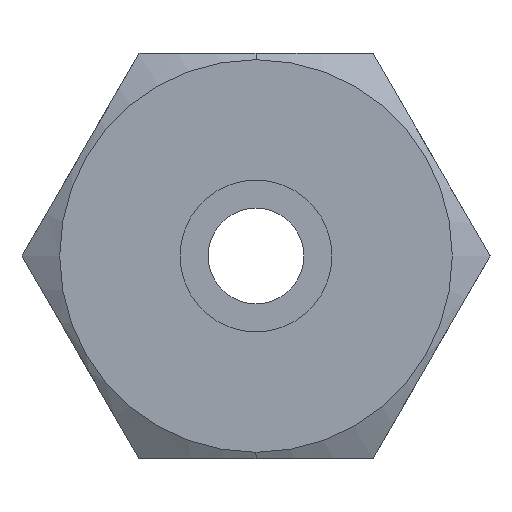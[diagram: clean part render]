
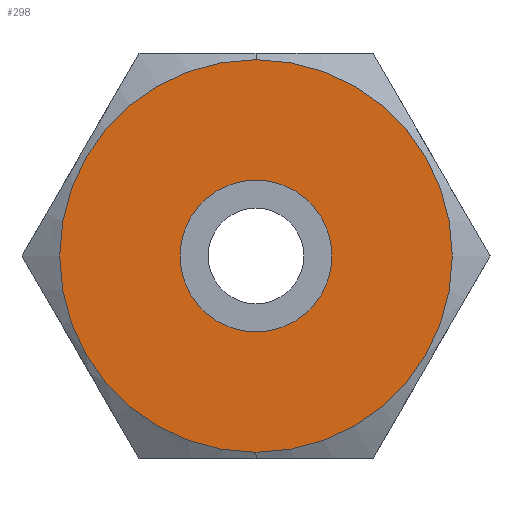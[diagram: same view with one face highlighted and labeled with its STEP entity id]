
A CAD part, left-side view. The second image highlights one B-rep face of the part: STEP entity #298.
In plain terms, the highlighted planar face has unit normal (-1, 0, 0).
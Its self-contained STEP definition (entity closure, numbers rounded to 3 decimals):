
#65 = VERTEX_POINT ( 'NONE', #650 ) ;
#160 = EDGE_CURVE ( 'NONE', #65, #1912, #803, .T. ) ;
#298 = ADVANCED_FACE ( 'NONE', ( #1015, #1014 ), #1013, .T. ) ;
#299 = EDGE_LOOP ( 'NONE', ( #300, #499 ) ) ;
#300 = ORIENTED_EDGE ( 'NONE', *, *, #498, .F. ) ;
#490 = ORIENTED_EDGE ( 'NONE', *, *, #491, .T. ) ;
#491 = EDGE_CURVE ( 'NONE', #1983, #1986, #1581, .T. ) ;
#498 = EDGE_CURVE ( 'NONE', #1912, #65, #1574, .T. ) ;
#499 = ORIENTED_EDGE ( 'NONE', *, *, #160, .F. ) ;
#500 = EDGE_LOOP ( 'NONE', ( #501, #490 ) ) ;
#501 = ORIENTED_EDGE ( 'NONE', *, *, #1985, .T. ) ;
#650 = CARTESIAN_POINT ( 'NONE',  ( -16.2, 0., -2.38 ) ) ;
#799 = DIRECTION ( 'NONE',  ( 0., 0., 1. ) ) ;
#800 = DIRECTION ( 'NONE',  ( -1., 0., 0. ) ) ;
#801 = CARTESIAN_POINT ( 'NONE',  ( -16.2, 0., 0. ) ) ;
#802 = AXIS2_PLACEMENT_3D ( 'NONE', #801, #800, #799 ) ;
#803 = CIRCLE ( 'NONE', #802, 2.38 ) ;
#1009 = DIRECTION ( 'NONE',  ( 0., 0., 1. ) ) ;
#1010 = DIRECTION ( 'NONE',  ( -1., 0., 0. ) ) ;
#1011 = AXIS2_PLACEMENT_3D ( 'NONE', #1012, #1010, #1009 ) ;
#1012 = CARTESIAN_POINT ( 'NONE',  ( -16.2, 7.332, 0. ) ) ;
#1013 = PLANE ( 'NONE',  #1011 ) ;
#1014 = FACE_OUTER_BOUND ( 'NONE', #500, .T. ) ;
#1015 = FACE_BOUND ( 'NONE', #299, .T. ) ;
#1469 = CARTESIAN_POINT ( 'NONE',  ( -16.2, 0., 2.38 ) ) ;
#1567 = DIRECTION ( 'NONE',  ( 0., 0., 1. ) ) ;
#1568 = DIRECTION ( 'NONE',  ( -1., 0., 0. ) ) ;
#1569 = CARTESIAN_POINT ( 'NONE',  ( -16.2, 0., 0. ) ) ;
#1570 = AXIS2_PLACEMENT_3D ( 'NONE', #1569, #1568, #1567 ) ;
#1574 = CIRCLE ( 'NONE', #1570, 2.38 ) ;
#1577 = DIRECTION ( 'NONE',  ( 0., 0., 1. ) ) ;
#1578 = DIRECTION ( 'NONE',  ( -1., 0., 0. ) ) ;
#1579 = CARTESIAN_POINT ( 'NONE',  ( -16.2, 0., 0. ) ) ;
#1580 = AXIS2_PLACEMENT_3D ( 'NONE', #1579, #1578, #1577 ) ;
#1581 = CIRCLE ( 'NONE', #1580, 6.15 ) ;
#1742 = CARTESIAN_POINT ( 'NONE',  ( -16.2, 0., 6.15 ) ) ;
#1743 = DIRECTION ( 'NONE',  ( 0., 0., 1. ) ) ;
#1744 = DIRECTION ( 'NONE',  ( -1., 0., 0. ) ) ;
#1745 = CARTESIAN_POINT ( 'NONE',  ( -16.2, 0., 0. ) ) ;
#1746 = AXIS2_PLACEMENT_3D ( 'NONE', #1745, #1744, #1743 ) ;
#1747 = CIRCLE ( 'NONE', #1746, 6.15 ) ;
#1748 = CARTESIAN_POINT ( 'NONE',  ( -16.2, 0., -6.15 ) ) ;
#1912 = VERTEX_POINT ( 'NONE', #1469 ) ;
#1983 = VERTEX_POINT ( 'NONE', #1748 ) ;
#1985 = EDGE_CURVE ( 'NONE', #1986, #1983, #1747, .T. ) ;
#1986 = VERTEX_POINT ( 'NONE', #1742 ) ;
